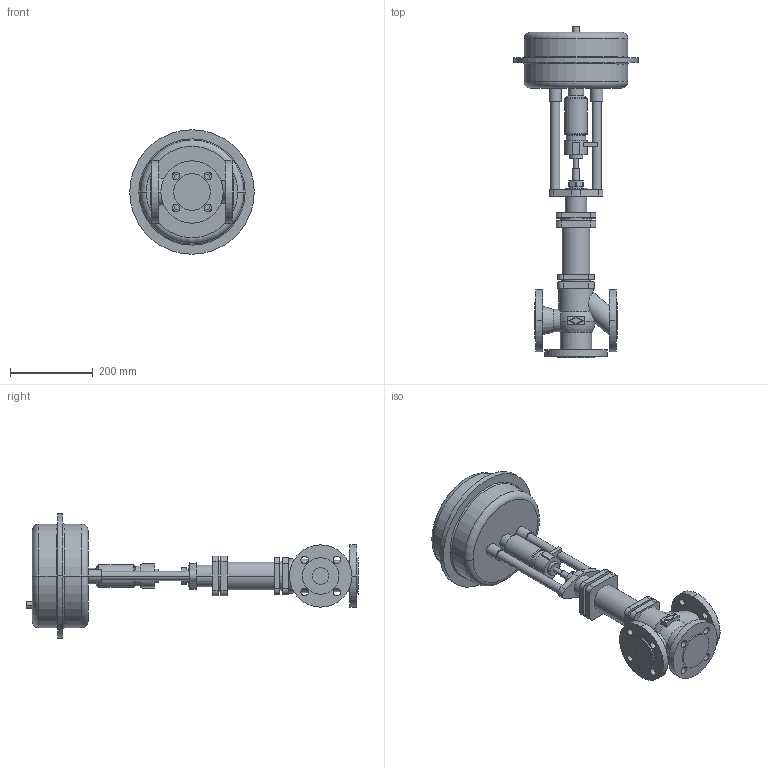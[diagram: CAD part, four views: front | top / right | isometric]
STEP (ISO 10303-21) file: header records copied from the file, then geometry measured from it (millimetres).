
FILE_DESCRIPTION(('OneSpaceDesigner STEP Export'),'2;1');
FILE_NAME('c000000708.stp','2006-09-21T 8:30:50',(''),(''),'OneSpace Designer STEP processor for AP214 (Solid Model)','OneSpace Designer 13.20A 18-Aug-2005 (C) CoCreate Software GmbH','');
FILE_SCHEMA(('AUTOMOTIVE_DESIGN { 1 0 10303 214 1 1 1 1 }'));
Length unit declared in the file: millimetre
Products named in the file (2): 1; 2
Bounding box: 300 x 800.1 x 300 mm (x, y, z)
Volume: 10375394.1 mm3; surface area: 592291.4 mm2
Topology: 2 solids, 2 shells, 243 faces, 592 edges, 387 vertices
Faces by surface type: cylinder 116, plane 101, torus 16, cone 6, sphere 4
Entity records: 6674 total; most frequent: CARTESIAN_POINT 1297, ORIENTED_EDGE 1184, DIRECTION 1016, EDGE_CURVE 592, VERTEX_POINT 387, AXIS2_PLACEMENT_3D 367, EDGE_LOOP 301, VECTOR 282
